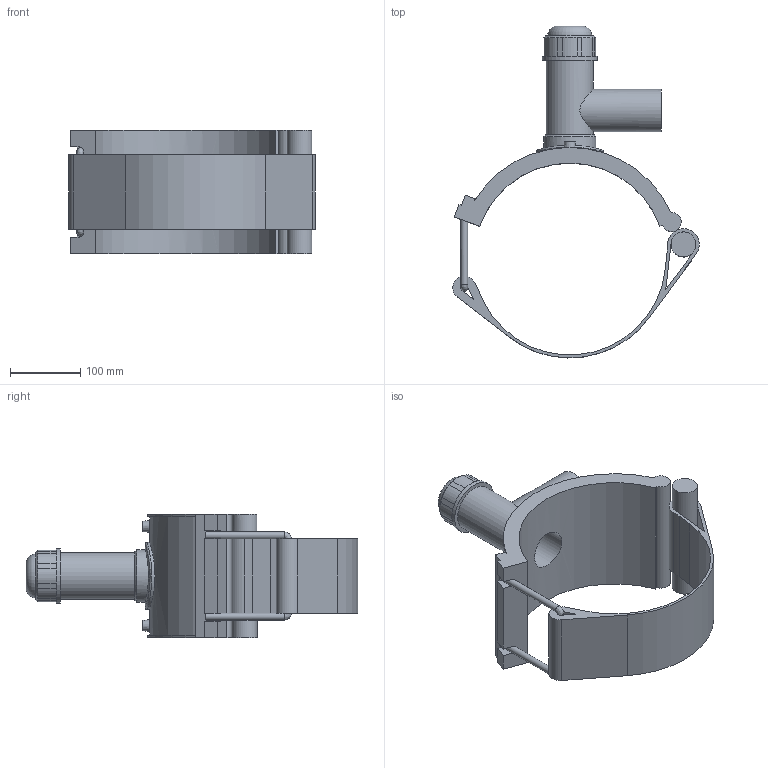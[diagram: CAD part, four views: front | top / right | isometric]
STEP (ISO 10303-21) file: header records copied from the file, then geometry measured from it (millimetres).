
FILE_DESCRIPTION(/* description */ ('PLASSON HIGH VOLUME TAPPING TEE 10''''IPS x 2''''IPS'),/* implementation_level */ '2;1');
FILE_NAME(/* name */ 'C:\Dropbox\KIMPROJECTS-Inventor 2019\99-16-3568-Processing Inch\ASTM ElectroFusion 2021\5913B\5913BB03100020.ipt.stp',/* time_stamp */ '2021-08-30T09:50:52+03:00',/* author */ ('KIM'),/* organization */ (''),/* preprocessor_version */ 'ST-DEVELOPER v17.2',/* originating_system */ 'Autodesk Inventor 2019',/* authorisation */ '');
FILE_SCHEMA (('AUTOMOTIVE_DESIGN { 1 0 10303 214 3 1 1 }'));
Length unit declared in the file: millimetre
Products named in the file (1): 5913BB03100020
Bounding box: 350.33 x 471.58 x 176.02 mm (x, y, z)
Volume: 2400420.3 mm3; surface area: 424216.3 mm2
Topology: 1 solids, 1 shells, 126 faces, 333 edges, 210 vertices
Faces by surface type: plane 69, cylinder 42, cone 11, bspline 3, torus 1
Full cylindrical faces by diameter (mm): 4 x2, 9.817 x2, 10 x2, 35.451 x1, 48.08 x1, 54.785 x1, 60.1 x1, 62.612 x1, 66.525 x1, 74.352 x1, 78.265 x1, 95.445 x1
Entity records: 4540 total; most frequent: CARTESIAN_POINT 1304, DIRECTION 678, ORIENTED_EDGE 664, EDGE_CURVE 332, AXIS2_PLACEMENT_3D 245, VERTEX_POINT 210, LINE 188, VECTOR 188
